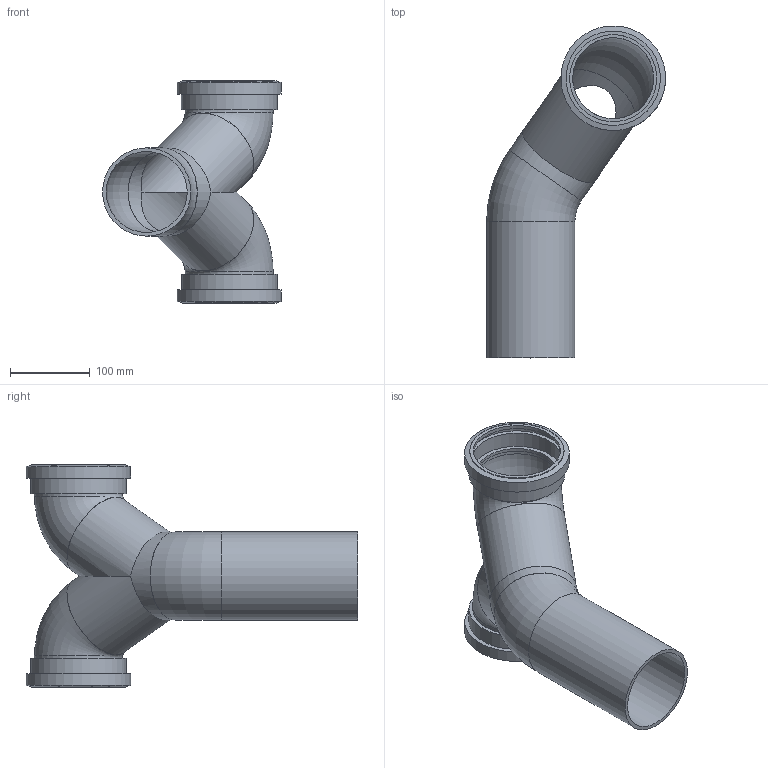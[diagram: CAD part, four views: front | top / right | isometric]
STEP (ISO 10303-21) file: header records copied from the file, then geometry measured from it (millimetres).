
FILE_DESCRIPTION(/* description */ (''),/* implementation_level */ '2;1');
FILE_NAME(/* name */ 'Z:\Geberit\Export\NewStep\367904.stp',/* time_stamp */ '2014-04-02T07:59:17+02:00',/* author */ ('bruh'),/* organization */ (''),/* preprocessor_version */ 'ST-DEVELOPER v15.2',/* originating_system */ 'Autodesk Inventor 2014',/* authorisation */ '');
FILE_SCHEMA (('AUTOMOTIVE_DESIGN { 1 0 10303 214 3 1 1 }'));
Length unit declared in the file: millimetre
Products named in the file (6): 853792; 853791; 853790; 387436; 862617; 367904
Bounding box: 223.78 x 414.98 x 278.92 mm (x, y, z)
Volume: 943001.4 mm3; surface area: 444570.4 mm2
Topology: 6 solids, 6 shells, 59 faces, 115 edges, 75 vertices
Faces by surface type: cylinder 24, plane 23, torus 6, cone 6
Full cylindrical faces by diameter (mm): 101.34 x3, 101.4 x3, 108.94 x2, 110 x3, 110.4 x3, 111.75 x2, 118 x2, 120 x2, 121.94 x2, 131 x2
Entity records: 988 total; most frequent: DIRECTION 176, CARTESIAN_POINT 168, AXIS2_PLACEMENT_3D 88, ORIENTED_EDGE 80, EDGE_LOOP 74, FACE_BOUND 45, STYLED_ITEM 41, EDGE_CURVE 40
